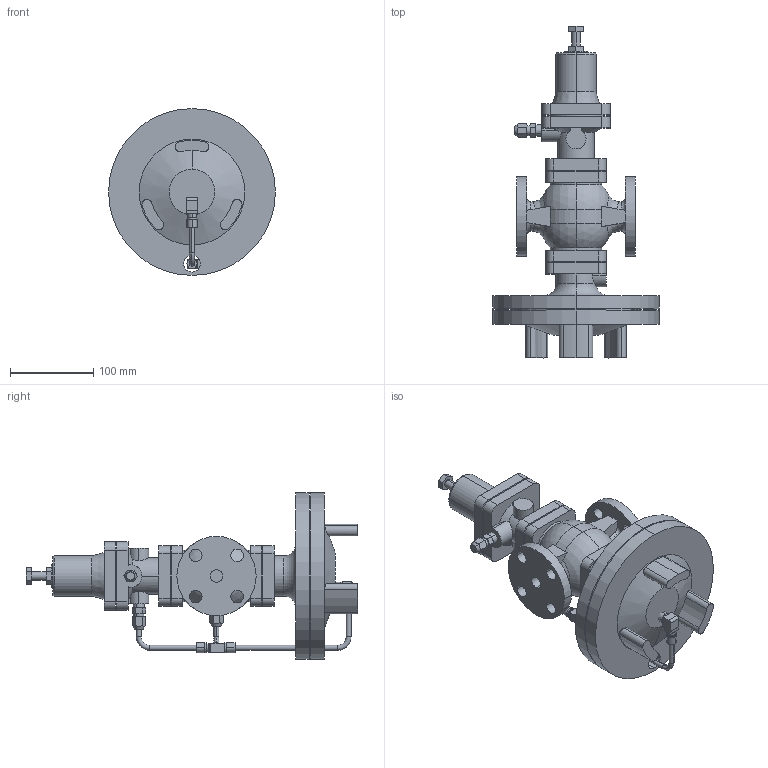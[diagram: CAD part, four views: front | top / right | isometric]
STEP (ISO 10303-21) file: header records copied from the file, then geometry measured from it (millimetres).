
FILE_DESCRIPTION (( 'STEP AP203' ), '1' );
FILE_NAME ('GPR-2000 JIS10K 15A.STEP', '2025-12-05T01:28:13', ( '' ), ( '' ), 'SwSTEP 2.0', 'SolidWorks 2024', '' );
FILE_SCHEMA (( 'CONFIG_CONTROL_DESIGN' ));
Length unit declared in the file: millimetre
Products named in the file (8): Pipe C 15-20A; Pipe B 15-20A; Elbow; GPR-2000 JIS10K 15A; Pipe A 15-25A; Tee; Joint; GPR-2000 Body Assy EN 15A
Assembly tree (9 placements, depth 2):
  GPR-2000 JIS10K 15A
    GPR-2000 Body Assy EN 15A
    Tee
    Joint  x3
    Pipe B 15-20A
    Pipe A 15-25A
    Elbow
    Pipe C 15-20A
Bounding box: 200 x 397.9 x 200 mm (x, y, z)
Volume: 2571498.9 mm3; surface area: 286761.7 mm2
Topology: 9 solids, 9 shells, 404 faces, 1016 edges, 676 vertices
Faces by surface type: plane 185, cylinder 168, cone 27, torus 16, sphere 4, bspline 4
Entity records: 13635 total; most frequent: CARTESIAN_POINT 4013, DIRECTION 1905, ORIENTED_EDGE 1764, EDGE_CURVE 882, AXIS2_PLACEMENT_3D 738, VERTEX_POINT 580, VECTOR 429, LINE 429
